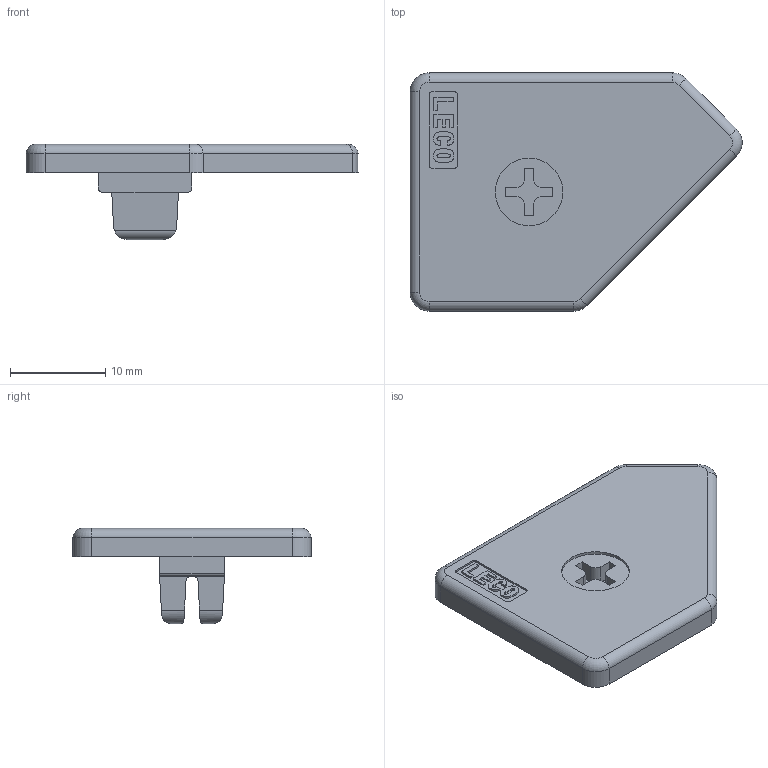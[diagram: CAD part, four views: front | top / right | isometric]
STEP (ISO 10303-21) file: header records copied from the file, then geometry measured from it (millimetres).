
FILE_DESCRIPTION(('STEP AP214'),'1');
FILE_NAME('E25A-L.stp','2017-07-18T02:59:27',(' '),(' '),'Spatial InterOp 3D',' ',' ');
FILE_SCHEMA(('automotive_design'));
Length unit declared in the file: millimetre
Products named in the file (1): E25A-L
Bounding box: 34.84 x 25 x 10 mm (x, y, z)
Volume: 2183 mm3; surface area: 2016.8 mm2
Topology: 1 solids, 1 shells, 140 faces, 370 edges, 242 vertices
Faces by surface type: plane 72, cylinder 63, torus 5
Full cylindrical faces by diameter (mm): 7.1 x1
Entity records: 5516 total; most frequent: CARTESIAN_POINT 808, DIRECTION 766, ORIENTED_EDGE 738, EDGE_CURVE 369, AXIS2_PLACEMENT_3D 264, VERTEX_POINT 242, LINE 238, VECTOR 238
